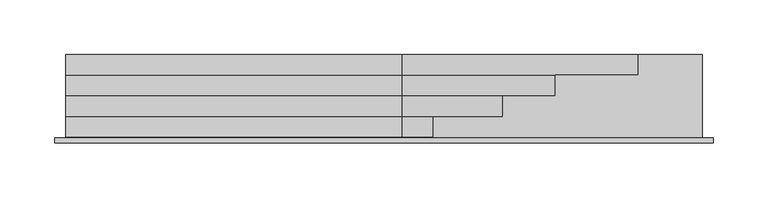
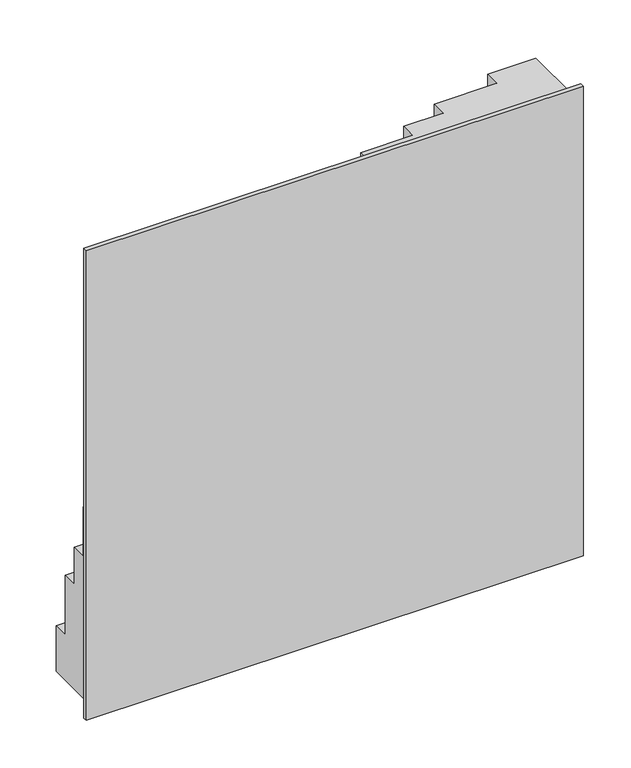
"""IFC4 building model written with IfcOpenShell, lengths in millimetres: plate geometry, Construction_Ceilings_Qwel-Tiles_Terra-Molded-Acoustic-Ceiling-Tiles : Terra (Charcoal Heather)."""

from ifc_helpers import new_model, si_unit, frame, origin, place, context, project, spatial, polyline, circle_curve, outline, extrude, source, transform, mapped, element, save
from ifc_brep_helpers import plane_surface, revolved_surface, advanced_brep


def plate_ab7ddb5a(model_context):
    return source(origin(), model_context, "Body", "SolidModel", [
        advanced_brep(
        [(290.8101562, 4.9609375, 13.9898438), (290.8101562, 81.1082644, 13.9898438), (290.8101563, 81.1082644, 595.6101563), (290.8101563, 4.9609375, 595.6101563), (-290.8101563, 4.9609375, 13.9898438), (-290.8101562, 4.9609375, 595.6101563), (-290.8101562, 5.3578125, 595.6101563), (-290.8101562, 5.3578125, 259.5860406), (-290.8101562, 24.0011217, 259.5860406), (-290.8101563, 24.0011217, 196.0942167), (-290.8101563, 43.0511081, 196.0942167), (-290.8101563, 43.0511081, 148.4770305), (-290.8101563, 62.1010648, 148.4770305), (-290.8101563, 62.1010648, 72.2917272), (-290.8101563, 81.1082644, 72.2917272), (-290.8101563, 81.1082644, 13.9898438), (16.2691428, 81.1082644, 72.2917272), (232.5008571, 81.1082644, 288.5234414), (232.5008571, 81.1082644, 595.6101563), (16.2691428, 62.1010648, 72.2917272), (16.2691428, 62.1010648, 148.4770305), (156.3155537, 62.1010648, 288.5234414), (156.3155537, 62.1010648, 595.6101563), (232.5008571, 62.1010648, 595.6101563), (232.5008571, 62.1010648, 288.5234414), (16.2691428, 43.0511081, 148.4770305), (16.2691428, 43.0511081, 196.0942167), (108.6983676, 43.0511081, 288.5234414), (108.6983676, 43.0511081, 595.6101563), (156.3155537, 43.0511081, 595.6101563), (156.3155537, 43.0511081, 288.5234414), (16.2691428, 24.0011217, 196.0942167), (108.6983676, 24.0011217, 288.5234414), (108.6983676, 24.0011217, 595.6101563), (16.2691428, 24.0011217, 259.5860406), (45.2065436, 24.0011217, 288.5234414), (45.2065436, 24.0011217, 595.6101563), (16.2691428, 5.3578125, 259.5860406), (45.2065436, 5.3578125, 288.5234414), (45.2065436, 5.3578125, 595.6101563)],
        [
            (0, 1),
            (1, 2),
            (2, 3),
            (3, 0),
            (4, 5),
            (5, 6),
            (6, 7),
            (7, 8),
            (8, 9),
            (9, 10),
            (10, 11),
            (11, 12),
            (12, 13),
            (13, 14),
            (14, 15),
            (15, 4),
            (3, 5),
            (4, 0),
            (1, 15),
            (14, 16),
            (16, 17, circle_curve(frame((16.2691428, 81.1082644, 288.5234414), z_axis=(0.0, -1.0, 0.0), x_axis=(0.0, 0.0, -1.0)), 216.2317143)),
            (17, 18),
            (18, 2),
            (13, 19),
            (19, 16),
            (12, 20),
            (20, 21, circle_curve(frame((16.2691428, 62.1010648, 288.5234414), z_axis=(0.0, -1.0, 0.0), x_axis=(0.0, 0.0, -1.0)), 140.0464109)),
            (21, 22),
            (22, 23),
            (23, 24),
            (24, 19, circle_curve(frame((16.2691428, 62.1010648, 288.5234414), z_axis=(0.0, 1.0, 0.0), x_axis=(0.0, 0.0, -1.0)), 216.2317143)),
            (11, 25),
            (25, 20),
            (10, 26),
            (26, 27, circle_curve(frame((16.2691428, 43.0511081, 288.5234414), z_axis=(0.0, -1.0, 0.0), x_axis=(0.0, 0.0, -1.0)), 92.4292248)),
            (27, 28),
            (28, 29),
            (29, 30),
            (30, 25, circle_curve(frame((16.2691428, 43.0511081, 288.5234414), z_axis=(0.0, 1.0, 0.0), x_axis=(0.0, 0.0, -1.0)), 140.0464109)),
            (9, 31),
            (31, 26),
            (24, 17),
            (30, 21),
            (31, 32, circle_curve(frame((16.2691428, 24.0011217, 288.5234414), z_axis=(0.0, -1.0, 0.0), x_axis=(0.0, 0.0, -1.0)), 92.4292248)),
            (32, 27),
            (23, 18),
            (29, 22),
            (32, 33),
            (33, 28),
            (8, 34),
            (34, 35, circle_curve(frame((16.2691428, 24.0011217, 288.5234414), z_axis=(0.0, -1.0, 0.0), x_axis=(0.0, 0.0, -1.0)), 28.9374008)),
            (35, 36),
            (36, 33),
            (7, 37),
            (37, 34),
            (37, 38, circle_curve(frame((16.2691428, 5.3578125, 288.5234414), z_axis=(0.0, -1.0, 0.0), x_axis=(0.0, 0.0, -1.0)), 28.9374008)),
            (38, 35),
            (38, 39),
            (39, 36),
            (39, 6),
        ],
        [
            plane_surface(frame((290.8101562, 4.9609375, 13.9898438), z_axis=(1.0, 0.0, 0.0), x_axis=(0.0, 1.0, 0.0))),
            plane_surface(frame((-290.8101563, 4.9609375, 13.9898438), z_axis=(-1.0, 0.0, 0.0), x_axis=(0.0, -1.0, 0.0))),
            plane_surface(frame((290.8101563, 4.9609375, 595.6101563), z_axis=(0.0, -1.0, 0.0), x_axis=(-1.0, 0.0, 0.0))),
            plane_surface(frame((290.8101562, 81.1082644, 13.9898438), z_axis=(0.0, 1.0, 0.0), x_axis=(-1.0, 0.0, 0.0))),
            plane_surface(frame((-290.8101563, 81.1082644, 72.2917272), z_axis=(0.0, 0.0, 1.0), x_axis=(1.0, 0.0, 0.0))),
            plane_surface(frame((-290.8101563, 62.1010648, 72.2917272), z_axis=(0.0, 1.0, 0.0), x_axis=(1.0, 0.0, 0.0))),
            plane_surface(frame((-290.8101562, 62.1010648, 148.4770305), z_axis=(0.0, 0.0, 1.0), x_axis=(1.0, 0.0, 0.0))),
            plane_surface(frame((-290.8101562, 43.0511081, 148.4770305), z_axis=(0.0, 1.0, 0.0), x_axis=(1.0, 0.0, 0.0))),
            plane_surface(frame((-290.8101562, 43.0511081, 196.0942167), z_axis=(0.0, 0.0, 1.0), x_axis=(1.0, 0.0, 0.0))),
            revolved_surface(polyline([(16.2691428, 62.1010648, 72.29172710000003), (16.2691428, 81.1082644, 72.29172710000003)]), (16.2691428, 4.9609375, 288.5234414), (0.0, -1.0, 0.0)),
            revolved_surface(polyline([(16.2691428, 43.0511081, 148.4770305), (16.2691428, 62.1010648, 148.4770305)]), (16.2691428, 4.9609375, 288.5234414), (0.0, -1.0, 0.0)),
            revolved_surface(polyline([(16.2691428, 24.0011217, 196.09421660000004), (16.2691428, 43.0511081, 196.09421660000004)]), (16.2691428, 4.9609375, 288.5234414), (0.0, -1.0, 0.0)),
            plane_surface(frame((232.5008571, 81.1082644, 288.5234414), z_axis=(-1.0, 0.0, 0.0), x_axis=(0.0, 0.0, 1.0))),
            plane_surface(frame((156.3155537, 62.1010648, 288.5234414), z_axis=(-1.0, 0.0, 0.0), x_axis=(0.0, 0.0, 1.0))),
            plane_surface(frame((108.6983676, 43.0511081, 288.5234414), z_axis=(-1.0, 0.0, 0.0), x_axis=(0.0, 0.0, 1.0))),
            plane_surface(frame((-290.8101562, 24.0011217, 196.0942167), z_axis=(0.0, 1.0, 0.0), x_axis=(1.0, 0.0, 0.0))),
            plane_surface(frame((-290.8101562, 24.0011217, 259.5860406), z_axis=(0.0, 0.0, 1.0), x_axis=(1.0, 0.0, 0.0))),
            revolved_surface(polyline([(16.2691428, 5.3578125, 259.58604060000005), (16.2691428, 24.0011217, 259.58604060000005)]), (16.2691428, 4.9609375, 288.5234414), (0.0, -1.0, 0.0)),
            plane_surface(frame((45.2065436, 24.0011217, 288.5234414), z_axis=(-1.0, 0.0, 0.0), x_axis=(0.0, 0.0, 1.0))),
            plane_surface(frame((290.8101562, 4.9609375, 13.9898438), z_axis=(0.0, 0.0, -1.0), x_axis=(-1.0, 0.0, 0.0))),
            plane_surface(frame((290.8101563, 81.1082644, 595.6101563), z_axis=(0.0, 0.0, 1.0), x_axis=(-1.0, 0.0, 0.0))),
            plane_surface(frame((-290.8101562, 5.3578125, 259.5860406), z_axis=(0.0, 1.0, 0.0), x_axis=(1.0, 0.0, 0.0))),
        ],
        [
            (0, [[1, 2, 3, 4]]),
            (1, [[5, 6, 7, 8, 9, 10, 11, 12, 13, 14, 15, 16]]),
            (2, [[-4, 17, -5, 18]]),
            (3, [[-2, 19, -15, 20, 21, 22, 23]]),
            (4, [[24, 25, -20, -14]]),
            (5, [[-24, -13, 26, 27, 28, 29, 30, 31]]),
            (6, [[-26, -12, 32, 33]]),
            (7, [[-32, -11, 34, 35, 36, 37, 38, 39]]),
            (8, [[-34, -10, 40, 41]]),
            (9, [[-25, -31, 42, -21]]),
            (10, [[-27, -33, -39, 43]]),
            (11, [[-35, -41, 44, 45]]),
            (12, [[-30, 46, -22, -42]]),
            (13, [[-28, -43, -38, 47]]),
            (14, [[-36, -45, 48, 49]]),
            (15, [[-40, -9, 50, 51, 52, 53, -48, -44]]),
            (16, [[-50, -8, 54, 55]]),
            (17, [[-51, -55, 56, 57]]),
            (18, [[-52, -57, 58, 59]]),
            (19, [[-1, -18, -16, -19]]),
            (20, [[-3, -23, -46, -29, -47, -37, -49, -53, -59, 60, -6, -17]]),
            (21, [[-54, -7, -60, -58, -56]]),
        ],
    ),
        extrude(outline(polyline([(300.99, 0.0), (-300.99, 0.0), (-300.99, 4.9609375), (300.99, 4.9609375), (300.99, 0.0)])), frame((0.0, 0.0, 3.81), z_axis=(0.0, 0.0, 1.0), x_axis=(1.0, 0.0, 0.0)), (0.0, 0.0, 1.0), 601.98),
    ])


if __name__ == "__main__":
    model = new_model("IFC4")
    model_context = context("Model", 3, world=origin())
    ifc_project = project(units=[si_unit("LENGTHUNIT", "METRE", prefix="MILLI")], contexts=[model_context])
    site = spatial("IfcSite", under=ifc_project)
    building = spatial("IfcBuilding", under=site)
    placement = place(None, origin())
    plate_shape = plate_ab7ddb5a(model_context)
    element("IfcPlate", 1, ObjectType="Construction_Ceilings_Qwel-Tiles_Terra-Molded-Acoustic-Ceiling-Tiles : Terra (Charcoal Heather)", at=placement, inside=building, context=model_context, shape_type="MappedRepresentation", body=[
        mapped(plate_shape, transform((0.0, 0.0, 0.0), x_axis=(1.0, 0.0, 0.0), y_axis=(0.0, 1.0, 0.0), z_axis=(0.0, 0.0, 1.0))),
    ])
    save(model, "model.ifc")
